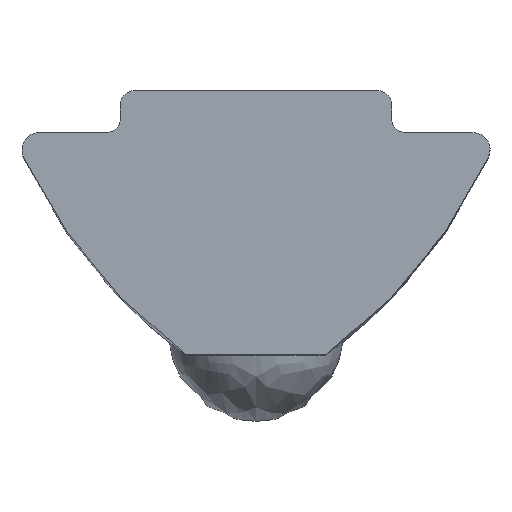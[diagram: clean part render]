
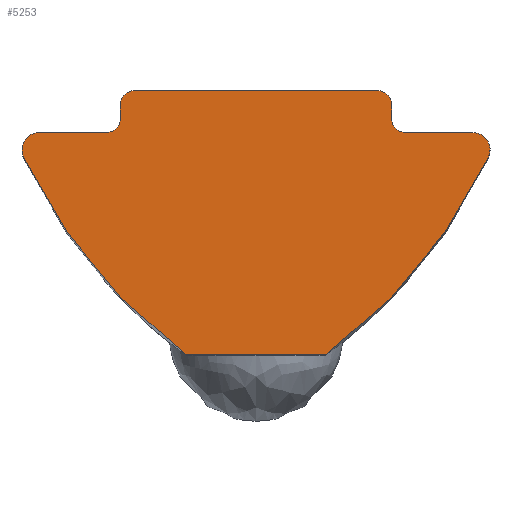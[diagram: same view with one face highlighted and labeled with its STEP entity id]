
A CAD part, top view. The second image highlights one B-rep face of the part: STEP entity #5253.
In plain terms, the highlighted planar face has unit normal (0, 0, 1).
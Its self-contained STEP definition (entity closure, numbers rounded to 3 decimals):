
#54 = VECTOR ( 'NONE', #2695, 1000. ) ;
#83 = CARTESIAN_POINT ( 'NONE',  ( -6.233, -0.8, 22. ) ) ;
#85 = CARTESIAN_POINT ( 'NONE',  ( 6.686, -1.513, 22. ) ) ;
#135 = VERTEX_POINT ( 'NONE', #1299 ) ;
#163 = CIRCLE ( 'NONE', #3687, 0.5 ) ;
#167 = CARTESIAN_POINT ( 'NONE',  ( -6.233, -1.3, 22. ) ) ;
#244 = DIRECTION ( 'NONE',  ( 0., 0., 1. ) ) ;
#255 = AXIS2_PLACEMENT_3D ( 'NONE', #4658, #3620, #6066 ) ;
#277 = FACE_OUTER_BOUND ( 'NONE', #5973, .T. ) ;
#305 = DIRECTION ( 'NONE',  ( -1., 0., 0. ) ) ;
#329 = CARTESIAN_POINT ( 'NONE',  ( -3.9, 0.4, 22. ) ) ;
#333 = DIRECTION ( 'NONE',  ( 1., 0., 0. ) ) ;
#358 = VERTEX_POINT ( 'NONE', #3362 ) ;
#545 = CARTESIAN_POINT ( 'NONE',  ( 6.233, -0.8, 22. ) ) ;
#582 = DIRECTION ( 'NONE',  ( 1., 0., 0. ) ) ;
#589 = DIRECTION ( 'NONE',  ( 0., 0., 1. ) ) ;
#618 = EDGE_CURVE ( 'NONE', #2158, #5233, #1659, .T. ) ;
#695 = EDGE_CURVE ( 'NONE', #2826, #4670, #2850, .T. ) ;
#854 = CIRCLE ( 'NONE', #3990, 0.4 ) ;
#879 = ORIENTED_EDGE ( 'NONE', *, *, #4820, .F. ) ;
#885 = DIRECTION ( 'NONE',  ( 0., 0., -1. ) ) ;
#968 = ORIENTED_EDGE ( 'NONE', *, *, #3592, .T. ) ;
#1015 = ORIENTED_EDGE ( 'NONE', *, *, #5407, .F. ) ;
#1089 = CARTESIAN_POINT ( 'NONE',  ( -4.3, -0.4, 22. ) ) ;
#1162 = PLANE ( 'NONE',  #5107 ) ;
#1278 = CARTESIAN_POINT ( 'NONE',  ( 6.879, 4.89, 22. ) ) ;
#1299 = CARTESIAN_POINT ( 'NONE',  ( -6.686, -1.513, 22. ) ) ;
#1428 = CARTESIAN_POINT ( 'NONE',  ( 0., -0.8, 22. ) ) ;
#1429 = CARTESIAN_POINT ( 'NONE',  ( -6.733, -1.3, 22. ) ) ;
#1568 = AXIS2_PLACEMENT_3D ( 'NONE', #167, #4082, #4617 ) ;
#1624 = CARTESIAN_POINT ( 'NONE',  ( -2., -7.2, 22. ) ) ;
#1626 = VERTEX_POINT ( 'NONE', #1624 ) ;
#1659 = CIRCLE ( 'NONE', #1750, 0.5 ) ;
#1716 = CARTESIAN_POINT ( 'NONE',  ( -3.9, -0.4, 22. ) ) ;
#1745 = LINE ( 'NONE', #1716, #54 ) ;
#1750 = AXIS2_PLACEMENT_3D ( 'NONE', #2818, #3705, #4273 ) ;
#1836 = VERTEX_POINT ( 'NONE', #3858 ) ;
#1874 = VECTOR ( 'NONE', #305, 1000. ) ;
#1971 = VECTOR ( 'NONE', #4657, 1000. ) ;
#2134 = CARTESIAN_POINT ( 'NONE',  ( 3.5, 0., 22. ) ) ;
#2158 = VERTEX_POINT ( 'NONE', #545 ) ;
#2264 = CIRCLE ( 'NONE', #3082, 0.4 ) ;
#2357 = ORIENTED_EDGE ( 'NONE', *, *, #3973, .T. ) ;
#2376 = DIRECTION ( 'NONE',  ( -1., 0., 0. ) ) ;
#2394 = DIRECTION ( 'NONE',  ( 1., 0., 0. ) ) ;
#2397 = VERTEX_POINT ( 'NONE', #4243 ) ;
#2421 = VERTEX_POINT ( 'NONE', #1429 ) ;
#2508 = DIRECTION ( 'NONE',  ( -1., 0., 0. ) ) ;
#2512 = ORIENTED_EDGE ( 'NONE', *, *, #4316, .T. ) ;
#2567 = DIRECTION ( 'NONE',  ( -1., 0., 0. ) ) ;
#2572 = ORIENTED_EDGE ( 'NONE', *, *, #618, .F. ) ;
#2695 = DIRECTION ( 'NONE',  ( 0., 1., 0. ) ) ;
#2720 = EDGE_CURVE ( 'NONE', #1626, #2397, #3347, .T. ) ;
#2766 = CIRCLE ( 'NONE', #3589, 15. ) ;
#2818 = CARTESIAN_POINT ( 'NONE',  ( 6.233, -1.3, 22. ) ) ;
#2826 = VERTEX_POINT ( 'NONE', #3112 ) ;
#2833 = VERTEX_POINT ( 'NONE', #3914 ) ;
#2850 = LINE ( 'NONE', #1428, #3779 ) ;
#2881 = AXIS2_PLACEMENT_3D ( 'NONE', #1278, #4574, #5078 ) ;
#2964 = ORIENTED_EDGE ( 'NONE', *, *, #3471, .T. ) ;
#2982 = CIRCLE ( 'NONE', #255, 0.4 ) ;
#3044 = EDGE_CURVE ( 'NONE', #4208, #2833, #3263, .T. ) ;
#3048 = ORIENTED_EDGE ( 'NONE', *, *, #2720, .T. ) ;
#3082 = AXIS2_PLACEMENT_3D ( 'NONE', #4050, #5988, #582 ) ;
#3112 = CARTESIAN_POINT ( 'NONE',  ( -4.3, -0.8, 22. ) ) ;
#3156 = CARTESIAN_POINT ( 'NONE',  ( 3.9, -0.4, 22. ) ) ;
#3180 = CIRCLE ( 'NONE', #2881, 15. ) ;
#3188 = DIRECTION ( 'NONE',  ( -1., 0., 0. ) ) ;
#3249 = CARTESIAN_POINT ( 'NONE',  ( -6.233, -1.3, 22. ) ) ;
#3263 = LINE ( 'NONE', #329, #1971 ) ;
#3270 = ORIENTED_EDGE ( 'NONE', *, *, #695, .T. ) ;
#3279 = AXIS2_PLACEMENT_3D ( 'NONE', #2134, #5135, #4571 ) ;
#3301 = CARTESIAN_POINT ( 'NONE',  ( -3.5, 0.4, 22. ) ) ;
#3347 = LINE ( 'NONE', #5284, #5620 ) ;
#3362 = CARTESIAN_POINT ( 'NONE',  ( -3.9, 0., 22. ) ) ;
#3397 = LINE ( 'NONE', #4407, #6114 ) ;
#3449 = ORIENTED_EDGE ( 'NONE', *, *, #3044, .F. ) ;
#3471 = EDGE_CURVE ( 'NONE', #5763, #3631, #3397, .T. ) ;
#3495 = CIRCLE ( 'NONE', #1568, 0.5 ) ;
#3514 = EDGE_CURVE ( 'NONE', #2397, #5233, #2766, .T. ) ;
#3552 = CARTESIAN_POINT ( 'NONE',  ( 3.9, 0., 22. ) ) ;
#3589 = AXIS2_PLACEMENT_3D ( 'NONE', #5995, #589, #2567 ) ;
#3592 = EDGE_CURVE ( 'NONE', #1836, #2826, #854, .T. ) ;
#3620 = DIRECTION ( 'NONE',  ( 0., 0., -1. ) ) ;
#3623 = CARTESIAN_POINT ( 'NONE',  ( 0., -0.8, 22. ) ) ;
#3631 = VERTEX_POINT ( 'NONE', #3552 ) ;
#3687 = AXIS2_PLACEMENT_3D ( 'NONE', #3249, #885, #3188 ) ;
#3705 = DIRECTION ( 'NONE',  ( 0., 0., -1. ) ) ;
#3710 = LINE ( 'NONE', #3623, #1874 ) ;
#3779 = VECTOR ( 'NONE', #2376, 1000. ) ;
#3819 = VERTEX_POINT ( 'NONE', #4117 ) ;
#3858 = CARTESIAN_POINT ( 'NONE',  ( -3.9, -0.4, 22. ) ) ;
#3914 = CARTESIAN_POINT ( 'NONE',  ( 3.5, 0.4, 22. ) ) ;
#3973 = EDGE_CURVE ( 'NONE', #3631, #2833, #6020, .T. ) ;
#3990 = AXIS2_PLACEMENT_3D ( 'NONE', #1089, #4534, #2508 ) ;
#4050 = CARTESIAN_POINT ( 'NONE',  ( -3.5, 0., 22. ) ) ;
#4082 = DIRECTION ( 'NONE',  ( 0., 0., -1. ) ) ;
#4088 = EDGE_CURVE ( 'NONE', #3819, #5763, #2982, .T. ) ;
#4117 = CARTESIAN_POINT ( 'NONE',  ( 4.3, -0.8, 22. ) ) ;
#4121 = ORIENTED_EDGE ( 'NONE', *, *, #5374, .T. ) ;
#4208 = VERTEX_POINT ( 'NONE', #3301 ) ;
#4243 = CARTESIAN_POINT ( 'NONE',  ( 2., -7.2, 22. ) ) ;
#4273 = DIRECTION ( 'NONE',  ( -1., 0., 0. ) ) ;
#4316 = EDGE_CURVE ( 'NONE', #4208, #358, #2264, .T. ) ;
#4407 = CARTESIAN_POINT ( 'NONE',  ( 3.9, -0.4, 22. ) ) ;
#4464 = ORIENTED_EDGE ( 'NONE', *, *, #4088, .T. ) ;
#4534 = DIRECTION ( 'NONE',  ( 0., 0., -1. ) ) ;
#4571 = DIRECTION ( 'NONE',  ( 1., 0., 0. ) ) ;
#4574 = DIRECTION ( 'NONE',  ( 0., 0., -1. ) ) ;
#4617 = DIRECTION ( 'NONE',  ( -1., 0., 0. ) ) ;
#4657 = DIRECTION ( 'NONE',  ( 1., 0., 0. ) ) ;
#4658 = CARTESIAN_POINT ( 'NONE',  ( 4.3, -0.4, 22. ) ) ;
#4670 = VERTEX_POINT ( 'NONE', #83 ) ;
#4820 = EDGE_CURVE ( 'NONE', #1836, #358, #1745, .T. ) ;
#5023 = CARTESIAN_POINT ( 'NONE',  ( 0., 0., 22. ) ) ;
#5078 = DIRECTION ( 'NONE',  ( -1., 0., 0. ) ) ;
#5107 = AXIS2_PLACEMENT_3D ( 'NONE', #5023, #244, #333 ) ;
#5135 = DIRECTION ( 'NONE',  ( 0., 0., 1. ) ) ;
#5145 = ORIENTED_EDGE ( 'NONE', *, *, #5836, .F. ) ;
#5233 = VERTEX_POINT ( 'NONE', #85 ) ;
#5253 = ADVANCED_FACE ( 'NONE', ( #277 ), #1162, .T. ) ;
#5284 = CARTESIAN_POINT ( 'NONE',  ( 0., -7.2, 22. ) ) ;
#5336 = DIRECTION ( 'NONE',  ( 0., 1., 0. ) ) ;
#5374 = EDGE_CURVE ( 'NONE', #2158, #3819, #3710, .T. ) ;
#5407 = EDGE_CURVE ( 'NONE', #1626, #135, #3180, .T. ) ;
#5620 = VECTOR ( 'NONE', #2394, 1000. ) ;
#5763 = VERTEX_POINT ( 'NONE', #3156 ) ;
#5836 = EDGE_CURVE ( 'NONE', #135, #2421, #3495, .T. ) ;
#5875 = ORIENTED_EDGE ( 'NONE', *, *, #3514, .T. ) ;
#5950 = EDGE_CURVE ( 'NONE', #2421, #4670, #163, .T. ) ;
#5973 = EDGE_LOOP ( 'NONE', ( #2964, #2357, #3449, #2512, #879, #968, #3270, #6241, #5145, #1015, #3048, #5875, #2572, #4121, #4464 ) ) ;
#5988 = DIRECTION ( 'NONE',  ( 0., 0., 1. ) ) ;
#5995 = CARTESIAN_POINT ( 'NONE',  ( -6.879, 4.89, 22. ) ) ;
#6020 = CIRCLE ( 'NONE', #3279, 0.4 ) ;
#6066 = DIRECTION ( 'NONE',  ( -1., 0., 0. ) ) ;
#6114 = VECTOR ( 'NONE', #5336, 1000. ) ;
#6241 = ORIENTED_EDGE ( 'NONE', *, *, #5950, .F. ) ;
